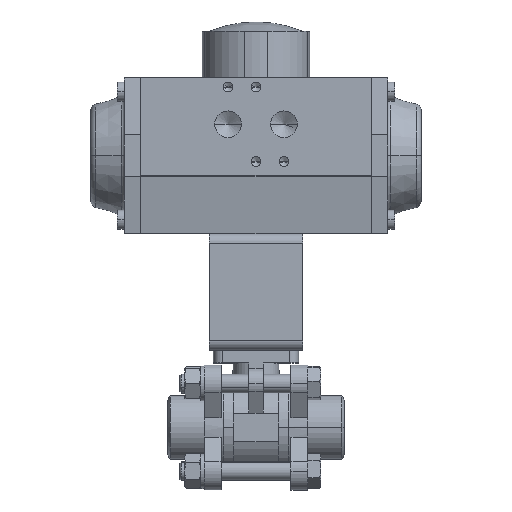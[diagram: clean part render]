
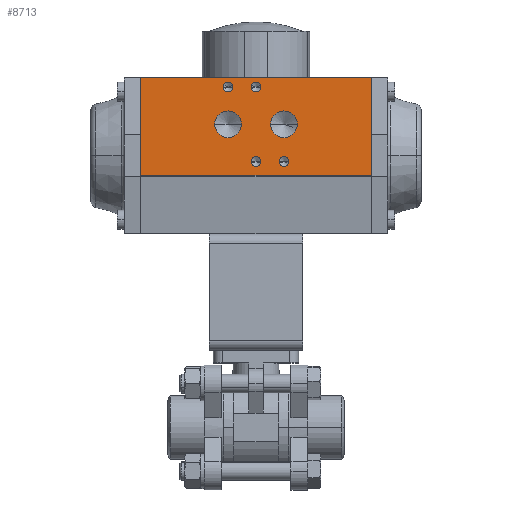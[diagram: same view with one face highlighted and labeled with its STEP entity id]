
A CAD part, top view. The second image highlights one B-rep face of the part: STEP entity #8713.
In plain terms, the highlighted planar face has unit normal (0, 0, 1) as drawn and (1, 0, 0) by its records, which use the part's own axes.
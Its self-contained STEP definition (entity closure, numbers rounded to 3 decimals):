
#454 = CARTESIAN_POINT ( 'NONE',  ( 36., 29.5, 12. ) ) ;
#455 = DIRECTION ( 'NONE',  ( 1., 0., 0. ) ) ;
#456 = DIRECTION ( 'NONE',  ( 0., 0., -1. ) ) ;
#472 = CARTESIAN_POINT ( 'NONE',  ( 36., -2.5, -12. ) ) ;
#473 = DIRECTION ( 'NONE',  ( 1., 0., 0. ) ) ;
#474 = DIRECTION ( 'NONE',  ( 0., 0., -1. ) ) ;
#490 = CARTESIAN_POINT ( 'NONE',  ( 36., -2.5, 0. ) ) ;
#491 = DIRECTION ( 'NONE',  ( 1., 0., 0. ) ) ;
#492 = DIRECTION ( 'NONE',  ( 0., 0., -1. ) ) ;
#1615 = CARTESIAN_POINT ( 'NONE',  ( 36., -8.5, 49.5 ) ) ;
#1698 = CARTESIAN_POINT ( 'NONE',  ( 36., 33.5, -49.5 ) ) ;
#1895 = CARTESIAN_POINT ( 'NONE',  ( 36., 29.5, 14.1 ) ) ;
#1898 = CARTESIAN_POINT ( 'NONE',  ( 36., 29.5, 9.9 ) ) ;
#1922 = CARTESIAN_POINT ( 'NONE',  ( 36., -2.5, 2.1 ) ) ;
#1956 = CARTESIAN_POINT ( 'NONE',  ( 36., -2.5, -9.9 ) ) ;
#1964 = CARTESIAN_POINT ( 'NONE',  ( 36., -8.5, -49.5 ) ) ;
#1966 = CARTESIAN_POINT ( 'NONE',  ( 36., -2.5, -14.1 ) ) ;
#2255 = CARTESIAN_POINT ( 'NONE',  ( 36., -2.5, -12. ) ) ;
#2257 = DIRECTION ( 'NONE',  ( 1., 0., 0. ) ) ;
#2258 = DIRECTION ( 'NONE',  ( 0., 0., -1. ) ) ;
#2267 = CARTESIAN_POINT ( 'NONE',  ( 36., 13.5, -12. ) ) ;
#2268 = DIRECTION ( 'NONE',  ( 1., 0., 0. ) ) ;
#2269 = DIRECTION ( 'NONE',  ( 0., 0., -1. ) ) ;
#2709 = LINE ( 'NONE', #2710, #6323 ) ;
#2710 = CARTESIAN_POINT ( 'NONE',  ( 36., 33.5, -49.5 ) ) ;
#2711 = DIRECTION ( 'NONE',  ( 0., 0., 1. ) ) ;
#4778 = VERTEX_POINT ( 'NONE', #5549 ) ;
#4807 = VERTEX_POINT ( 'NONE', #5578 ) ;
#4892 = VERTEX_POINT ( 'NONE', #5663 ) ;
#4912 = VERTEX_POINT ( 'NONE', #5683 ) ;
#4990 = VERTEX_POINT ( 'NONE', #5706 ) ;
#5049 = VERTEX_POINT ( 'NONE', #5765 ) ;
#5118 = VERTEX_POINT ( 'NONE', #5834 ) ;
#5549 = CARTESIAN_POINT ( 'NONE',  ( 36., 13.5, -6.277 ) ) ;
#5578 = CARTESIAN_POINT ( 'NONE',  ( 36., 13.5, -17.722 ) ) ;
#5663 = CARTESIAN_POINT ( 'NONE',  ( 36., 13.5, 17.722 ) ) ;
#5683 = CARTESIAN_POINT ( 'NONE',  ( 36., 13.5, 6.277 ) ) ;
#5706 = CARTESIAN_POINT ( 'NONE',  ( 36., 29.5, -2.1 ) ) ;
#5765 = CARTESIAN_POINT ( 'NONE',  ( 36., 29.5, 2.1 ) ) ;
#5834 = CARTESIAN_POINT ( 'NONE',  ( 36., -2.5, -2.1 ) ) ;
#6113 = VECTOR ( 'NONE', #13530, 1000. ) ;
#6161 = AXIS2_PLACEMENT_3D ( 'NONE', #13362, #13363, #13364 ) ;
#6163 = CIRCLE ( 'NONE', #6161, 2.1 ) ;
#6166 = VECTOR ( 'NONE', #13353, 1000. ) ;
#6190 = VECTOR ( 'NONE', #13296, 1000. ) ;
#6205 = AXIS2_PLACEMENT_3D ( 'NONE', #13242, #13243, #13244 ) ;
#6207 = CIRCLE ( 'NONE', #6205, 5.722 ) ;
#6208 = AXIS2_PLACEMENT_3D ( 'NONE', #13236, #13237, #13238 ) ;
#6211 = CIRCLE ( 'NONE', #6208, 2.1 ) ;
#6215 = AXIS2_PLACEMENT_3D ( 'NONE', #13221, #13222, #13223 ) ;
#6218 = CIRCLE ( 'NONE', #6215, 2.1 ) ;
#6323 = VECTOR ( 'NONE', #2711, 1000. ) ;
#6453 = AXIS2_PLACEMENT_3D ( 'NONE', #2267, #2268, #2269 ) ;
#6457 = AXIS2_PLACEMENT_3D ( 'NONE', #2255, #2257, #2258 ) ;
#6459 = CIRCLE ( 'NONE', #6457, 2.1 ) ;
#6464 = CIRCLE ( 'NONE', #6453, 5.722 ) ;
#6678 = EDGE_CURVE ( 'NONE', #9026, #9028, #7078, .T. ) ;
#6684 = EDGE_CURVE ( 'NONE', #9065, #9071, #7070, .T. ) ;
#6690 = EDGE_CURVE ( 'NONE', #9043, #5118, #7061, .T. ) ;
#6696 = EDGE_CURVE ( 'NONE', #5049, #4990, #7053, .T. ) ;
#6702 = EDGE_CURVE ( 'NONE', #4778, #4807, #7044, .T. ) ;
#6708 = EDGE_CURVE ( 'NONE', #4892, #4912, #7036, .T. ) ;
#7031 = AXIS2_PLACEMENT_3D ( 'NONE', #12721, #12722, #12723 ) ;
#7036 = CIRCLE ( 'NONE', #7031, 5.722 ) ;
#7040 = AXIS2_PLACEMENT_3D ( 'NONE', #12703, #12704, #12705 ) ;
#7044 = CIRCLE ( 'NONE', #7040, 5.722 ) ;
#7048 = AXIS2_PLACEMENT_3D ( 'NONE', #12685, #12686, #12687 ) ;
#7053 = CIRCLE ( 'NONE', #7048, 2.1 ) ;
#7057 = AXIS2_PLACEMENT_3D ( 'NONE', #490, #491, #492 ) ;
#7061 = CIRCLE ( 'NONE', #7057, 2.1 ) ;
#7066 = AXIS2_PLACEMENT_3D ( 'NONE', #472, #473, #474 ) ;
#7070 = CIRCLE ( 'NONE', #7066, 2.1 ) ;
#7074 = AXIS2_PLACEMENT_3D ( 'NONE', #454, #455, #456 ) ;
#7078 = CIRCLE ( 'NONE', #7074, 2.1 ) ;
#7345 = VERTEX_POINT ( 'NONE', #13027 ) ;
#8713 = ADVANCED_FACE ( 'NONE', ( #11964, #11966, #11968, #11970, #11963, #11965, #11967 ), #11969, .T. ) ;
#8862 = VERTEX_POINT ( 'NONE', #1615 ) ;
#8910 = VERTEX_POINT ( 'NONE', #1698 ) ;
#9026 = VERTEX_POINT ( 'NONE', #1895 ) ;
#9028 = VERTEX_POINT ( 'NONE', #1898 ) ;
#9043 = VERTEX_POINT ( 'NONE', #1922 ) ;
#9065 = VERTEX_POINT ( 'NONE', #1956 ) ;
#9070 = VERTEX_POINT ( 'NONE', #1964 ) ;
#9071 = VERTEX_POINT ( 'NONE', #1966 ) ;
#9420 = AXIS2_PLACEMENT_3D ( 'NONE', #11961, #11973, #11974 ) ;
#9732 = EDGE_CURVE ( 'NONE', #9071, #9065, #6459, .T. ) ;
#9735 = EDGE_CURVE ( 'NONE', #4807, #4778, #6464, .T. ) ;
#9828 = EDGE_CURVE ( 'NONE', #8910, #7345, #2709, .T. ) ;
#9897 = EDGE_CURVE ( 'NONE', #4990, #5049, #6218, .T. ) ;
#9902 = EDGE_CURVE ( 'NONE', #5118, #9043, #6211, .T. ) ;
#9904 = EDGE_CURVE ( 'NONE', #4912, #4892, #6207, .T. ) ;
#9922 = EDGE_CURVE ( 'NONE', #8862, #7345, #13283, .T. ) ;
#9941 = EDGE_CURVE ( 'NONE', #9070, #8910, #13351, .T. ) ;
#9944 = EDGE_CURVE ( 'NONE', #9028, #9026, #6163, .T. ) ;
#9987 = EDGE_CURVE ( 'NONE', #9070, #8862, #13514, .T. ) ;
#10396 = ORIENTED_EDGE ( 'NONE', *, *, #9922, .F. ) ;
#10401 = ORIENTED_EDGE ( 'NONE', *, *, #6696, .F. ) ;
#10406 = ORIENTED_EDGE ( 'NONE', *, *, #9828, .T. ) ;
#10416 = ORIENTED_EDGE ( 'NONE', *, *, #9897, .F. ) ;
#10419 = ORIENTED_EDGE ( 'NONE', *, *, #6708, .F. ) ;
#10420 = ORIENTED_EDGE ( 'NONE', *, *, #9987, .F. ) ;
#10421 = ORIENTED_EDGE ( 'NONE', *, *, #9941, .T. ) ;
#10423 = ORIENTED_EDGE ( 'NONE', *, *, #9735, .F. ) ;
#10424 = ORIENTED_EDGE ( 'NONE', *, *, #6702, .F. ) ;
#10425 = ORIENTED_EDGE ( 'NONE', *, *, #9904, .F. ) ;
#10426 = ORIENTED_EDGE ( 'NONE', *, *, #6690, .F. ) ;
#10427 = ORIENTED_EDGE ( 'NONE', *, *, #9902, .F. ) ;
#10438 = ORIENTED_EDGE ( 'NONE', *, *, #9732, .F. ) ;
#10439 = ORIENTED_EDGE ( 'NONE', *, *, #9944, .F. ) ;
#10456 = ORIENTED_EDGE ( 'NONE', *, *, #6678, .F. ) ;
#10469 = ORIENTED_EDGE ( 'NONE', *, *, #6684, .F. ) ;
#11401 = EDGE_LOOP ( 'NONE', ( #10423, #10424 ) ) ;
#11402 = EDGE_LOOP ( 'NONE', ( #10406, #10396, #10420, #10421 ) ) ;
#11447 = EDGE_LOOP ( 'NONE', ( #10427, #10426 ) ) ;
#11549 = EDGE_LOOP ( 'NONE', ( #10416, #10401 ) ) ;
#11588 = EDGE_LOOP ( 'NONE', ( #10438, #10469 ) ) ;
#11723 = EDGE_LOOP ( 'NONE', ( #10439, #10456 ) ) ;
#11961 = CARTESIAN_POINT ( 'NONE',  ( 36., -8.5, -49.5 ) ) ;
#11963 = FACE_BOUND ( 'NONE', #11401, .T. ) ;
#11964 = FACE_BOUND ( 'NONE', #11723, .T. ) ;
#11965 = FACE_BOUND ( 'NONE', #15955, .T. ) ;
#11966 = FACE_BOUND ( 'NONE', #11588, .T. ) ;
#11967 = FACE_OUTER_BOUND ( 'NONE', #11402, .T. ) ;
#11968 = FACE_BOUND ( 'NONE', #11447, .T. ) ;
#11969 = PLANE ( 'NONE',  #9420 ) ;
#11970 = FACE_BOUND ( 'NONE', #11549, .T. ) ;
#11973 = DIRECTION ( 'NONE',  ( 1., 0., 0. ) ) ;
#11974 = DIRECTION ( 'NONE',  ( 0., 0., -1. ) ) ;
#12685 = CARTESIAN_POINT ( 'NONE',  ( 36., 29.5, 0. ) ) ;
#12686 = DIRECTION ( 'NONE',  ( 1., 0., 0. ) ) ;
#12687 = DIRECTION ( 'NONE',  ( 0., 0., -1. ) ) ;
#12703 = CARTESIAN_POINT ( 'NONE',  ( 36., 13.5, -12. ) ) ;
#12704 = DIRECTION ( 'NONE',  ( 1., 0., 0. ) ) ;
#12705 = DIRECTION ( 'NONE',  ( 0., 0., -1. ) ) ;
#12721 = CARTESIAN_POINT ( 'NONE',  ( 36., 13.5, 12. ) ) ;
#12722 = DIRECTION ( 'NONE',  ( 1., 0., 0. ) ) ;
#12723 = DIRECTION ( 'NONE',  ( 0., 0., -1. ) ) ;
#13027 = CARTESIAN_POINT ( 'NONE',  ( 36., 33.5, 49.5 ) ) ;
#13221 = CARTESIAN_POINT ( 'NONE',  ( 36., 29.5, 0. ) ) ;
#13222 = DIRECTION ( 'NONE',  ( 1., 0., 0. ) ) ;
#13223 = DIRECTION ( 'NONE',  ( 0., 0., -1. ) ) ;
#13236 = CARTESIAN_POINT ( 'NONE',  ( 36., -2.5, 0. ) ) ;
#13237 = DIRECTION ( 'NONE',  ( 1., 0., 0. ) ) ;
#13238 = DIRECTION ( 'NONE',  ( 0., 0., -1. ) ) ;
#13242 = CARTESIAN_POINT ( 'NONE',  ( 36., 13.5, 12. ) ) ;
#13243 = DIRECTION ( 'NONE',  ( 1., 0., 0. ) ) ;
#13244 = DIRECTION ( 'NONE',  ( 0., 0., -1. ) ) ;
#13283 = LINE ( 'NONE', #13295, #6190 ) ;
#13295 = CARTESIAN_POINT ( 'NONE',  ( 36., -8.5, 49.5 ) ) ;
#13296 = DIRECTION ( 'NONE',  ( 0., 1., 0. ) ) ;
#13351 = LINE ( 'NONE', #13352, #6166 ) ;
#13352 = CARTESIAN_POINT ( 'NONE',  ( 36., -8.5, -49.5 ) ) ;
#13353 = DIRECTION ( 'NONE',  ( 0., 1., 0. ) ) ;
#13362 = CARTESIAN_POINT ( 'NONE',  ( 36., 29.5, 12. ) ) ;
#13363 = DIRECTION ( 'NONE',  ( 1., 0., 0. ) ) ;
#13364 = DIRECTION ( 'NONE',  ( 0., 0., -1. ) ) ;
#13514 = LINE ( 'NONE', #13526, #6113 ) ;
#13526 = CARTESIAN_POINT ( 'NONE',  ( 36., -8.5, -49.5 ) ) ;
#13530 = DIRECTION ( 'NONE',  ( 0., 0., 1. ) ) ;
#15955 = EDGE_LOOP ( 'NONE', ( #10425, #10419 ) ) ;
